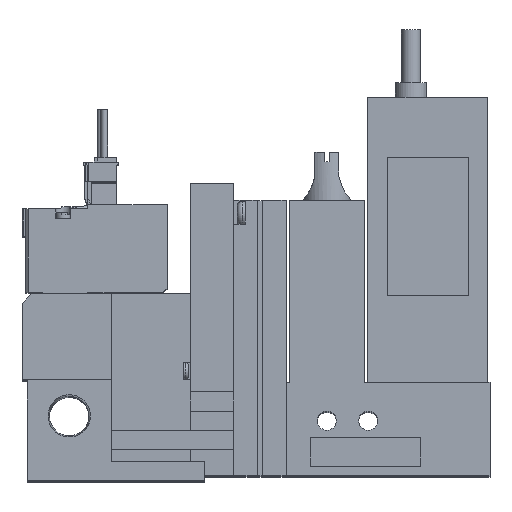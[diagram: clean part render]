
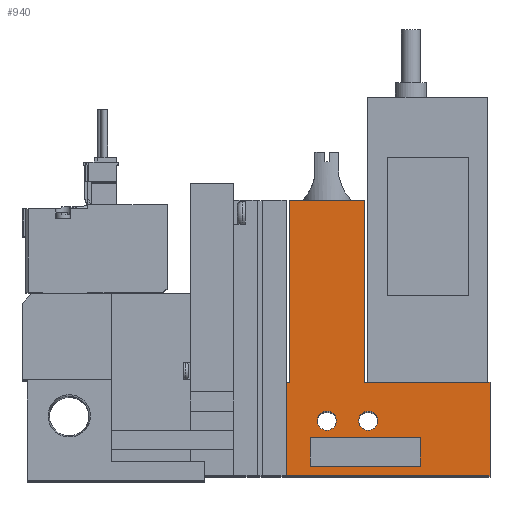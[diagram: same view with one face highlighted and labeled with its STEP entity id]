
A CAD part, top view. The second image highlights one B-rep face of the part: STEP entity #940.
In plain terms, the highlighted planar face has unit normal (0, 0, 1).
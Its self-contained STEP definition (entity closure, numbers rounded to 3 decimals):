
#940=ADVANCED_FACE('',(#1914,#1915,#1916,#1917),#1918,.T.);
#1914=FACE_BOUND('',#3218,.T.);
#1915=FACE_BOUND('',#3219,.T.);
#1916=FACE_BOUND('',#3220,.T.);
#1917=FACE_OUTER_BOUND('',#3221,.T.);
#1918=PLANE('',#3222);
#3218=EDGE_LOOP('',(#6675,#6676,#6677,#6678));
#3219=EDGE_LOOP('',(#6679));
#3220=EDGE_LOOP('',(#6680));
#3221=EDGE_LOOP('',(#6681,#6682,#6683,#6684,#6685,#6686,#6687,#6688));
#3222=AXIS2_PLACEMENT_3D('',#6689,#6690,#6691);
#6675=ORIENTED_EDGE('',*,*,#8981,.T.);
#6676=ORIENTED_EDGE('',*,*,#8818,.T.);
#6677=ORIENTED_EDGE('',*,*,#8756,.T.);
#6678=ORIENTED_EDGE('',*,*,#8963,.T.);
#6679=ORIENTED_EDGE('',*,*,#8943,.T.);
#6680=ORIENTED_EDGE('',*,*,#8906,.T.);
#6681=ORIENTED_EDGE('',*,*,#8876,.F.);
#6682=ORIENTED_EDGE('',*,*,#8936,.T.);
#6683=ORIENTED_EDGE('',*,*,#8990,.T.);
#6684=ORIENTED_EDGE('',*,*,#9005,.T.);
#6685=ORIENTED_EDGE('',*,*,#8968,.T.);
#6686=ORIENTED_EDGE('',*,*,#8880,.T.);
#6687=ORIENTED_EDGE('',*,*,#8945,.T.);
#6688=ORIENTED_EDGE('',*,*,#8805,.T.);
#6689=CARTESIAN_POINT('',(0.0,0.0,10.0));
#6690=DIRECTION('',(0.0,0.0,1.0));
#6691=DIRECTION('',(1.0,0.0,0.0));
#8756=EDGE_CURVE('',#10574,#10579,#10581,.T.);
#8805=EDGE_CURVE('',#10670,#10668,#10671,.T.);
#8818=EDGE_CURVE('',#10690,#10574,#10694,.T.);
#8876=EDGE_CURVE('',#10795,#10668,#10797,.T.);
#8880=EDGE_CURVE('',#10805,#10803,#10806,.T.);
#8906=EDGE_CURVE('',#10847,#10847,#10848,.T.);
#8936=EDGE_CURVE('',#10795,#10897,#10899,.T.);
#8943=EDGE_CURVE('',#10909,#10909,#10910,.T.);
#8945=EDGE_CURVE('',#10803,#10670,#10912,.T.);
#8963=EDGE_CURVE('',#10579,#10937,#10939,.T.);
#8968=EDGE_CURVE('',#10945,#10805,#10946,.T.);
#8981=EDGE_CURVE('',#10937,#10690,#10964,.T.);
#8990=EDGE_CURVE('',#10897,#10977,#10979,.T.);
#9005=EDGE_CURVE('',#10977,#10945,#10997,.T.);
#10574=VERTEX_POINT('',#13516);
#10579=VERTEX_POINT('',#13523);
#10581=LINE('',#13526,#13527);
#10668=VERTEX_POINT('',#13658);
#10670=VERTEX_POINT('',#13661);
#10671=LINE('',#13662,#13663);
#10690=VERTEX_POINT('',#13692);
#10694=LINE('',#13698,#13699);
#10795=VERTEX_POINT('',#13880);
#10797=LINE('',#13883,#13884);
#10803=VERTEX_POINT('',#13891);
#10805=VERTEX_POINT('',#13894);
#10806=LINE('',#13895,#13896);
#10847=VERTEX_POINT('',#13953);
#10848=CIRCLE('',#13954,2.0);
#10897=VERTEX_POINT('',#14031);
#10899=LINE('',#14034,#14035);
#10909=VERTEX_POINT('',#14072);
#10910=CIRCLE('',#14073,2.0);
#10912=LINE('',#14076,#14077);
#10937=VERTEX_POINT('',#14116);
#10939=LINE('',#14119,#14120);
#10945=VERTEX_POINT('',#14129);
#10946=LINE('',#14130,#14131);
#10964=LINE('',#14159,#14160);
#10977=VERTEX_POINT('',#14180);
#10979=LINE('',#14183,#14184);
#10997=LINE('',#14214,#14215);
#13516=CARTESIAN_POINT('',(83.1,8.0,10.0));
#13523=CARTESIAN_POINT('',(83.1,2.0,10.0));
#13526=CARTESIAN_POINT('',(83.1,0.0,10.0));
#13527=VECTOR('',#16171,1.0);
#13658=CARTESIAN_POINT('',(55.1,19.5,10.0));
#13661=CARTESIAN_POINT('',(55.75,19.5,10.0));
#13662=CARTESIAN_POINT('',(55.75,19.5,10.0));
#13663=VECTOR('',#16226,1.0);
#13692=CARTESIAN_POINT('',(60.1,8.0,10.0));
#13698=CARTESIAN_POINT('',(0.0,8.0,10.0));
#13699=VECTOR('',#16239,1.0);
#13880=CARTESIAN_POINT('',(55.1,0.0,10.0));
#13883=CARTESIAN_POINT('',(55.1,0.0,10.0));
#13884=VECTOR('',#16300,1.0);
#13891=CARTESIAN_POINT('',(55.75,57.5,10.0));
#13894=CARTESIAN_POINT('',(71.45,57.5,10.0));
#13895=CARTESIAN_POINT('',(71.45,57.5,10.0));
#13896=VECTOR('',#16306,1.0);
#13953=CARTESIAN_POINT('',(74.2,11.5,10.0));
#13954=AXIS2_PLACEMENT_3D('',#16350,#16351,#16352);
#14031=CARTESIAN_POINT('',(97.6,0.0,10.0));
#14034=CARTESIAN_POINT('',(18.6,0.0,10.0));
#14035=VECTOR('',#16382,1.0);
#14072=CARTESIAN_POINT('',(65.6,11.5,10.0));
#14073=AXIS2_PLACEMENT_3D('',#16390,#16391,#16392);
#14076=CARTESIAN_POINT('',(55.75,57.5,10.0));
#14077=VECTOR('',#16394,1.0);
#14116=CARTESIAN_POINT('',(60.1,2.0,10.0));
#14119=CARTESIAN_POINT('',(0.0,2.0,10.0));
#14120=VECTOR('',#16416,1.0);
#14129=CARTESIAN_POINT('',(71.45,19.5,10.0));
#14130=CARTESIAN_POINT('',(71.45,19.5,10.0));
#14131=VECTOR('',#16423,1.0);
#14159=CARTESIAN_POINT('',(60.1,0.0,10.0));
#14160=VECTOR('',#16440,1.0);
#14180=CARTESIAN_POINT('',(97.6,19.5,10.0));
#14183=CARTESIAN_POINT('',(97.6,0.0,10.0));
#14184=VECTOR('',#16449,1.0);
#14214=CARTESIAN_POINT('',(97.6,19.5,10.0));
#14215=VECTOR('',#16468,1.0);
#16171=DIRECTION('',(0.0,-1.0,0.0));
#16226=DIRECTION('',(-1.0,0.0,0.0));
#16239=DIRECTION('',(1.0,0.0,0.0));
#16300=DIRECTION('',(0.0,1.0,0.0));
#16306=DIRECTION('',(-1.0,0.0,0.0));
#16350=CARTESIAN_POINT('',(72.2,11.5,10.0));
#16351=DIRECTION('',(0.0,0.0,-1.0));
#16352=DIRECTION('',(1.0,0.0,0.0));
#16382=DIRECTION('',(1.0,0.0,0.0));
#16390=CARTESIAN_POINT('',(63.6,11.5,10.0));
#16391=DIRECTION('',(0.0,0.0,-1.0));
#16392=DIRECTION('',(1.0,0.0,0.0));
#16394=DIRECTION('',(0.0,-1.0,0.0));
#16416=DIRECTION('',(-1.0,0.0,0.0));
#16423=DIRECTION('',(0.0,1.0,0.0));
#16440=DIRECTION('',(0.0,1.0,0.0));
#16449=DIRECTION('',(0.0,1.0,0.0));
#16468=DIRECTION('',(-1.0,0.0,0.0));
